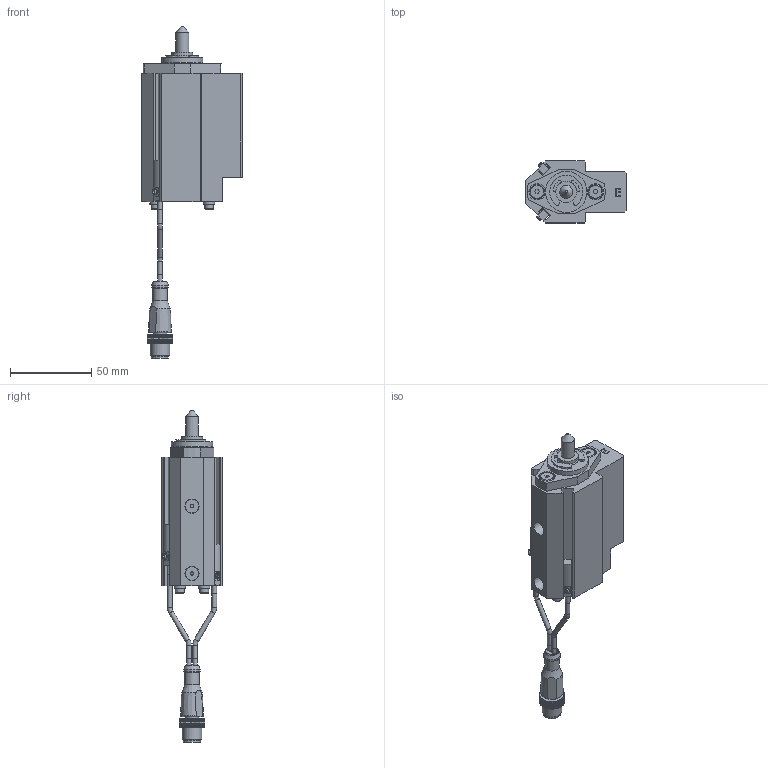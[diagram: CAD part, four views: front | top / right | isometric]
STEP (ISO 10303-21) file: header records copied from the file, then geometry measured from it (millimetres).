
FILE_DESCRIPTION(/* description */ ('NAAMS FLOATING MICRO PIN'),/* implementation_level */ '2;1');
FILE_NAME(/* name */ 'C:\Vault Workspace\CAD\Welker\Shot Pin\NMP\NMP080012EANL3.stp',/* time_stamp */ '2021-01-27T08:33:08-05:00',/* author */ ('WELKER'),/* organization */ (''),/* preprocessor_version */ 'ST-DEVELOPER v18.1',/* originating_system */ 'Autodesk Inventor 2020',/* authorisation */ '');
FILE_SCHEMA (('AUTOMOTIVE_DESIGN { 1 0 10303 214 3 1 1 }'));
Length unit declared in the file: millimetre
Products named in the file (16): NMPL01; NMP L3 SWITCH; L3 Connector; L3 Sensor 1; L3 Sensor 2; L3 Sensor cable; L3 Sensor cable 2; M3X0.5-8 SHCS; NL3; NMPE06; NMPE03; NMPE05-DIA-LENGTH; 985432A218; NMPE01E-PORT; RMPE02; M5X5 SHOULDER
Assembly tree (22 placements, depth 3):
  NMPL01
    NMP L3 SWITCH
      L3 Connector
      L3 Sensor 1
      L3 Sensor 2
      L3 Sensor cable
      L3 Sensor cable 2
    M3X0.5-8 SHCS  x4
    NL3  x4
    NMPE06
    NMPE03
    NMPE05-DIA-LENGTH
    985432A218
    NMPE01E-PORT
    RMPE02
    M5X5 SHOULDER  x2
Bounding box: 62 x 38.1 x 204.73 mm (x, y, z)
Volume: 112899 mm3; surface area: 44477.9 mm2
Topology: 21 solids, 21 shells, 748 faces, 2030 edges, 1357 vertices
Faces by surface type: plane 553, cylinder 144, cone 35, torus 11, sphere 3, bspline 2
Full cylindrical faces by diameter (mm): 2 x2, 2.459 x4, 2.9 x10, 3 x5, 3.242 x2, 3.4 x4, 4 x2, 5 x6, 5.5 x4, 6.647 x2, 7 x4, 8 x3, 8.3 x2, 9 x3, 10 x3, 10.4 x1, 10.5 x1, 12 x1, 13 x3, 16 x2, 19.05 x3, 21 x1, 22.5 x1, 23.672 x1, 24 x1, 25.4 x1, 25.5 x1, 26.5 x1, 28.677 x1, 29.21 x1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
Entity records: 22859 total; most frequent: CARTESIAN_POINT 4181, ORIENTED_EDGE 3752, DIRECTION 3736, EDGE_CURVE 1876, LINE 1388, VECTOR 1388, VERTEX_POINT 1262, AXIS2_PLACEMENT_3D 1174
